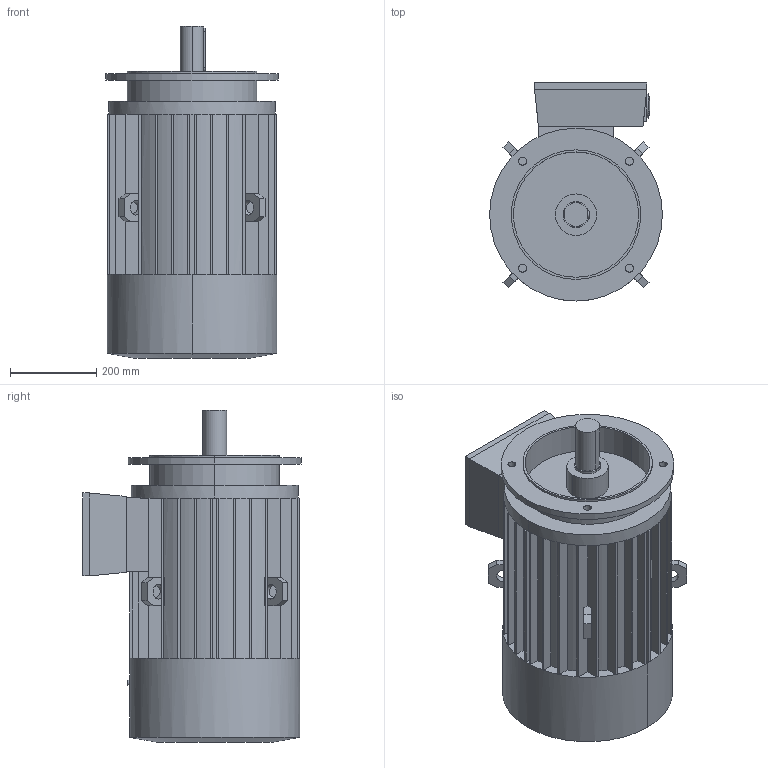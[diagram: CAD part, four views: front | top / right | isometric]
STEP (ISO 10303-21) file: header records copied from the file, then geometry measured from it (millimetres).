
FILE_DESCRIPTION((''),'2;1');
FILE_NAME('1LA9206-2AA61_PRT_PRT','2003-07-11T',('mobil2'),(''),'PRO/ENGINEER BY PARAMETRIC TECHNOLOGY CORPORATION, 2002030','PRO/ENGINEER BY PARAMETRIC TECHNOLOGY CORPORATION, 2002030','');
FILE_SCHEMA(('CONFIG_CONTROL_DESIGN'));
Length unit declared in the file: millimetre
Products named in the file (1): 1LA9206-2AA61_PRT_PRT
Bounding box: 400 x 505 x 768.5 mm (x, y, z)
Volume: 70994535.6 mm3; surface area: 1932808.9 mm2
Topology: 1 solids, 1 shells, 339 faces, 880 edges, 542 vertices
Faces by surface type: plane 263, cylinder 70, sphere 4, cone 2
Entity records: 10340 total; most frequent: CARTESIAN_POINT 1879, DIRECTION 1780, ORIENTED_EDGE 1752, EDGE_CURVE 876, VECTOR 610, LINE 610, AXIS2_PLACEMENT_3D 585, VERTEX_POINT 542
